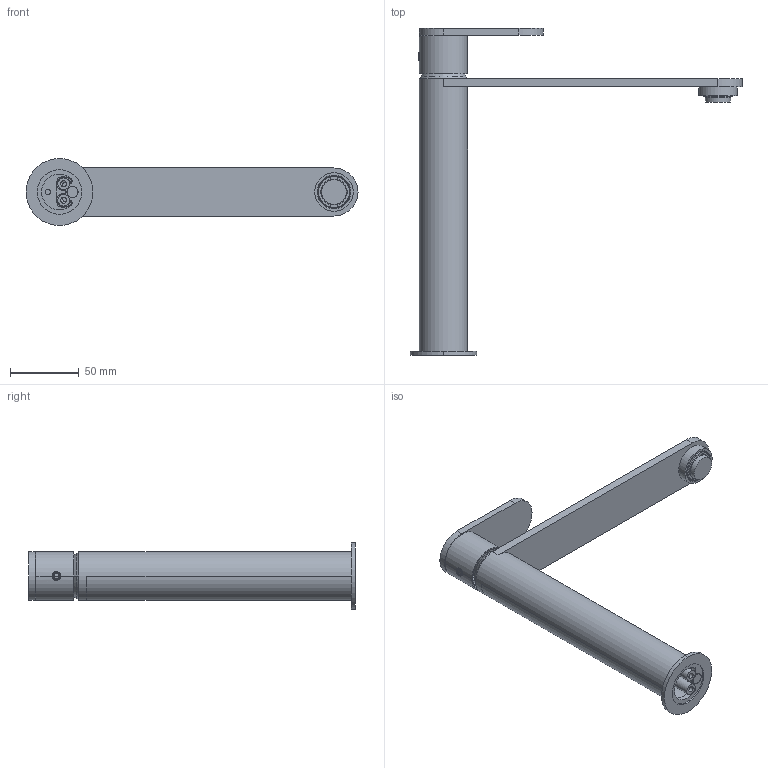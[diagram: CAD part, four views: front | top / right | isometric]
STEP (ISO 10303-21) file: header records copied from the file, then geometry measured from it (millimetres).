
FILE_DESCRIPTION((''),'2;1');
FILE_NAME('7904021_SW0001','2026-10-05T14:16:47',('carloff'),(''),'CREO PARAMETRIC BY PTC INC, 2025443','CREO PARAMETRIC BY PTC INC, 2025443','');
FILE_SCHEMA(('CONFIG_CONTROL_DESIGN'));
Length unit declared in the file: millimetre
Products named in the file (1): 7904021_SW0001
Bounding box: 241.9 x 238.24 x 48.8 mm (x, y, z)
Volume: 164380.4 mm3; surface area: 116699.4 mm2
Topology: 2 solids, 2 shells, 1174 faces, 2957 edges, 1777 vertices
Faces by surface type: cylinder 468, plane 295, torus 129, cone 118, bspline 100, sphere 64
Entity records: 48101 total; most frequent: CARTESIAN_POINT 20643, DIRECTION 5823, ORIENTED_EDGE 5776, EDGE_CURVE 2888, AXIS2_PLACEMENT_3D 2401, VERTEX_POINT 1777, CIRCLE 1327, EDGE_LOOP 1279
